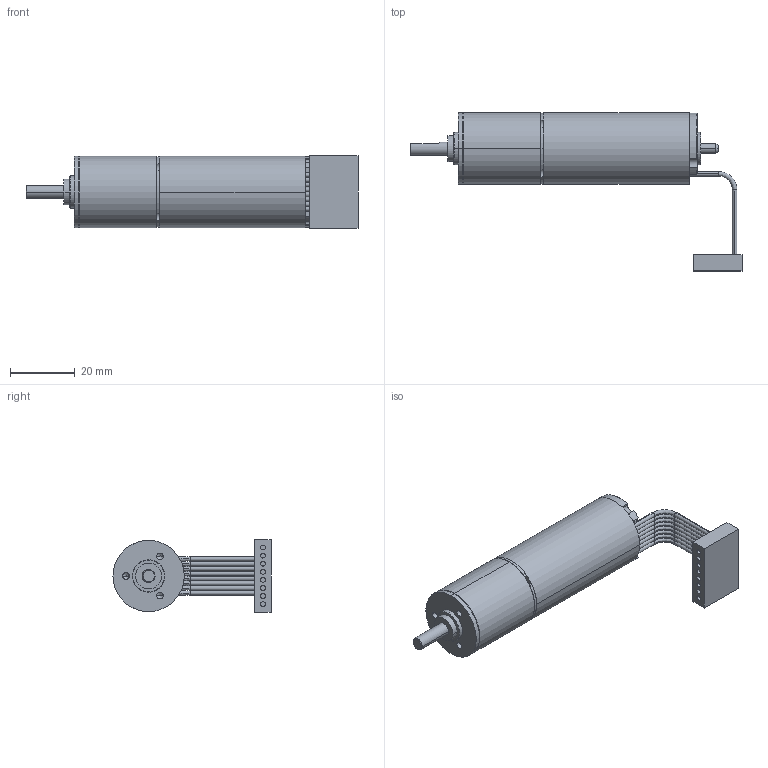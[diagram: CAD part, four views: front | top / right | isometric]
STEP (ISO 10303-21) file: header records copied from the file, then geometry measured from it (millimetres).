
FILE_DESCRIPTION (( 'STEP AP214' ), '1' );
FILE_NAME ('ECMax22L_+_GP022C 1etage.STEP', '2015-08-04T08:52:47', ( '' ), ( '' ), 'SwSTEP 2.0', 'SolidWorks 2014', '' );
FILE_SCHEMA (( 'AUTOMOTIVE_DESIGN' ));
Length unit declared in the file: millimetre
Products named in the file (3): GP022C; ECMax22L; ECMax22L_+_GP022C 1etage
Assembly tree (2 placements, depth 2):
  ECMax22L_+_GP022C 1etage
    ECMax22L
    GP022C
Bounding box: 102.5 x 48.8 x 22.4 mm (x, y, z)
Volume: 27642.2 mm3; surface area: 10267.2 mm2
Topology: 2 solids, 2 shells, 205 faces, 513 edges, 322 vertices
Faces by surface type: cylinder 110, cone 46, plane 33, bspline 16
Entity records: 7391 total; most frequent: CARTESIAN_POINT 1517, DIRECTION 1162, ORIENTED_EDGE 986, AXIS2_PLACEMENT_3D 495, EDGE_CURVE 493, VERTEX_POINT 322, CIRCLE 301, EDGE_LOOP 249
